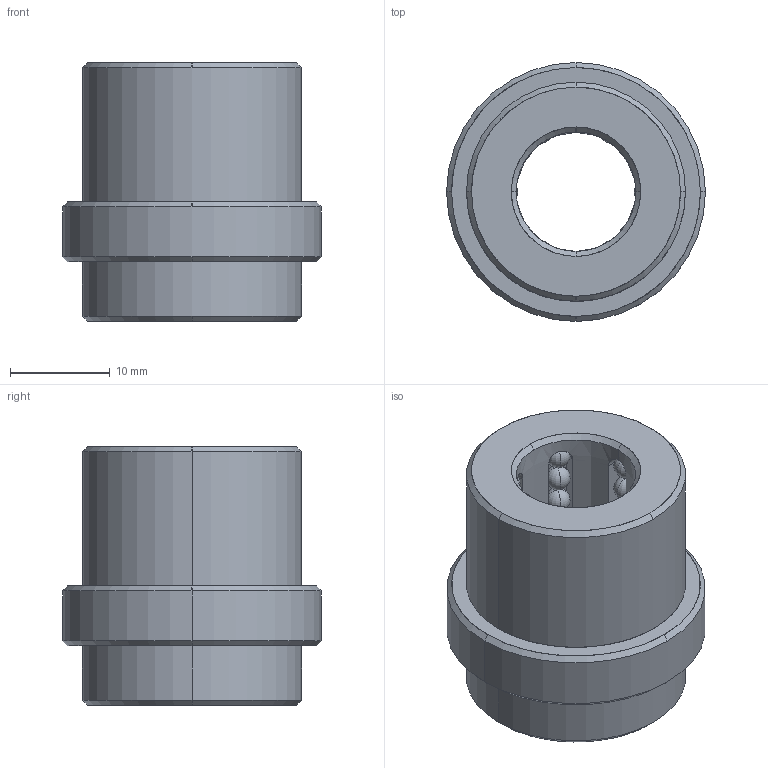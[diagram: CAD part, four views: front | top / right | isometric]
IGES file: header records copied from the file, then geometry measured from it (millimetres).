
Start section: START RECORD GO HERE.
Global section: file name: B8121226.igs; native system: DASSAULT SYSTEMES CATIA V5 R20 - www.3ds.com; preprocessor: CATIA Version 5 Release 20 ; author: Utente; organization: NB04-ASUS; date: 20200419.171318; units: millimetre
Bounding box: 26 x 26 x 26 mm (x, y, z)
Surface area: 5204.4 mm2 (no closed solid volume)
Topology: 0 solids, 0 shells, 258 faces, 1092 edges, 708 vertices
Faces by surface type: revolution 236, plane 22
